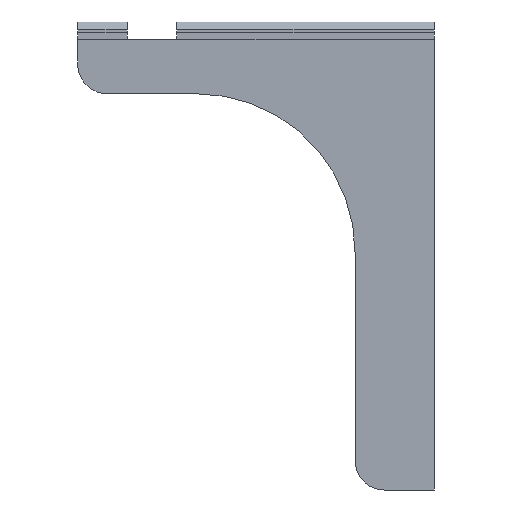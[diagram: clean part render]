
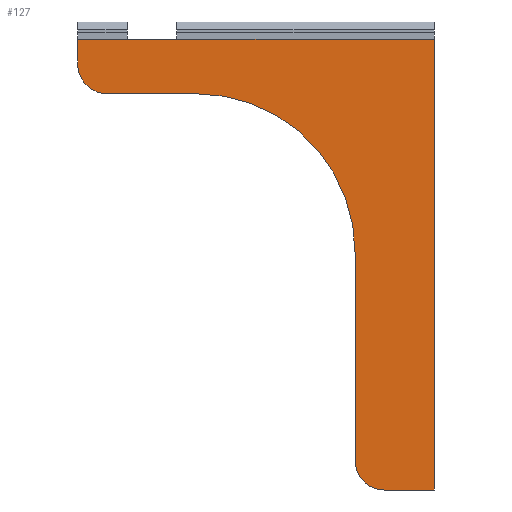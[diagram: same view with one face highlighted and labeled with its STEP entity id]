
A CAD part, left-side view. The second image highlights one B-rep face of the part: STEP entity #127.
In plain terms, the highlighted planar face has unit normal (-1, 0, 0).
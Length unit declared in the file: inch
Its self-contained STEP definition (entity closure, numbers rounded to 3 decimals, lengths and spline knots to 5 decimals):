
#53 = CIRCLE ( 'NONE', #1082, 0.375 ) ;
#106 = VECTOR ( 'NONE', #941, 39.37008 ) ;
#110 = DIRECTION ( 'NONE',  ( 0., 0., 1. ) ) ;
#127 = ADVANCED_FACE ( 'NONE', ( #1442 ), #1270, .F. ) ;
#151 = VERTEX_POINT ( 'NONE', #1494 ) ;
#162 = DIRECTION ( 'NONE',  ( -1., 0., 0. ) ) ;
#168 = ORIENTED_EDGE ( 'NONE', *, *, #1198, .F. ) ;
#199 = CARTESIAN_POINT ( 'NONE',  ( -1.1875, 1., -3. ) ) ;
#264 = DIRECTION ( 'NONE',  ( 0., 0., -1. ) ) ;
#276 = CARTESIAN_POINT ( 'NONE',  ( -1.1875, 0.625, -5.625 ) ) ;
#281 = ORIENTED_EDGE ( 'NONE', *, *, #343, .F. ) ;
#286 = EDGE_CURVE ( 'NONE', #151, #529, #811, .T. ) ;
#287 = DIRECTION ( 'NONE',  ( 0., 1., 0. ) ) ;
#301 = EDGE_CURVE ( 'NONE', #901, #1317, #388, .T. ) ;
#329 = VERTEX_POINT ( 'NONE', #558 ) ;
#343 = EDGE_CURVE ( 'NONE', #329, #529, #999, .T. ) ;
#348 = ORIENTED_EDGE ( 'NONE', *, *, #1094, .F. ) ;
#353 = VECTOR ( 'NONE', #425, 39.37008 ) ;
#359 = AXIS2_PLACEMENT_3D ( 'NONE', #276, #885, #1017 ) ;
#388 = LINE ( 'NONE', #684, #353 ) ;
#390 = CIRCLE ( 'NONE', #991, 2. ) ;
#420 = ORIENTED_EDGE ( 'NONE', *, *, #1031, .F. ) ;
#425 = DIRECTION ( 'NONE',  ( 0., 1., 0. ) ) ;
#428 = DIRECTION ( 'NONE',  ( 0., 0., 1. ) ) ;
#467 = DIRECTION ( 'NONE',  ( 1., 0., 0. ) ) ;
#494 = LINE ( 'NONE', #682, #1209 ) ;
#529 = VERTEX_POINT ( 'NONE', #1423 ) ;
#553 = CARTESIAN_POINT ( 'NONE',  ( -1.1875, 0.625, -5.625 ) ) ;
#555 = DIRECTION ( 'NONE',  ( 0., 0., 1. ) ) ;
#558 = CARTESIAN_POINT ( 'NONE',  ( -1.1875, 4.5, -0.625 ) ) ;
#566 = CARTESIAN_POINT ( 'NONE',  ( -1.1875, 1., -3. ) ) ;
#576 = CARTESIAN_POINT ( 'NONE',  ( -1.1875, 0., 0. ) ) ;
#651 = CARTESIAN_POINT ( 'NONE',  ( -1.1875, 4.125, -1. ) ) ;
#661 = CARTESIAN_POINT ( 'NONE',  ( -1.1875, 0., -0.314 ) ) ;
#670 = DIRECTION ( 'NONE',  ( 1., 0., 0. ) ) ;
#682 = CARTESIAN_POINT ( 'NONE',  ( -1.1875, 4.125, -1. ) ) ;
#684 = CARTESIAN_POINT ( 'NONE',  ( -1.1875, 0., -6. ) ) ;
#733 = LINE ( 'NONE', #576, #106 ) ;
#740 = CARTESIAN_POINT ( 'NONE',  ( -1.1875, 3., -1. ) ) ;
#747 = ORIENTED_EDGE ( 'NONE', *, *, #1375, .F. ) ;
#752 = CARTESIAN_POINT ( 'NONE',  ( -1.1875, 3., -3. ) ) ;
#788 = EDGE_CURVE ( 'NONE', #1129, #976, #390, .T. ) ;
#802 = CARTESIAN_POINT ( 'NONE',  ( -1.1875, 4.5, 0. ) ) ;
#811 = LINE ( 'NONE', #661, #867 ) ;
#828 = EDGE_LOOP ( 'NONE', ( #281, #168, #348, #891, #420, #747, #1036, #1365, #1000 ) ) ;
#867 = VECTOR ( 'NONE', #287, 39.37008 ) ;
#885 = DIRECTION ( 'NONE',  ( 1., 0., 0. ) ) ;
#891 = ORIENTED_EDGE ( 'NONE', *, *, #788, .F. ) ;
#899 = DIRECTION ( 'NONE',  ( 0., 0., 1. ) ) ;
#901 = VERTEX_POINT ( 'NONE', #984 ) ;
#923 = DIRECTION ( 'NONE',  ( 0., 1., 0. ) ) ;
#941 = DIRECTION ( 'NONE',  ( 0., 0., -1. ) ) ;
#976 = VERTEX_POINT ( 'NONE', #740 ) ;
#980 = VECTOR ( 'NONE', #899, 39.37008 ) ;
#984 = CARTESIAN_POINT ( 'NONE',  ( -1.1875, 0., -6. ) ) ;
#991 = AXIS2_PLACEMENT_3D ( 'NONE', #752, #162, #264 ) ;
#999 = LINE ( 'NONE', #802, #1035 ) ;
#1000 = ORIENTED_EDGE ( 'NONE', *, *, #286, .T. ) ;
#1017 = DIRECTION ( 'NONE',  ( 0., 0., 1. ) ) ;
#1031 = EDGE_CURVE ( 'NONE', #1108, #1129, #1366, .T. ) ;
#1035 = VECTOR ( 'NONE', #555, 39.37008 ) ;
#1036 = ORIENTED_EDGE ( 'NONE', *, *, #301, .F. ) ;
#1077 = AXIS2_PLACEMENT_3D ( 'NONE', #553, #670, #428 ) ;
#1082 = AXIS2_PLACEMENT_3D ( 'NONE', #1420, #467, #110 ) ;
#1094 = EDGE_CURVE ( 'NONE', #976, #1133, #494, .T. ) ;
#1108 = VERTEX_POINT ( 'NONE', #1236 ) ;
#1129 = VERTEX_POINT ( 'NONE', #199 ) ;
#1133 = VERTEX_POINT ( 'NONE', #651 ) ;
#1198 = EDGE_CURVE ( 'NONE', #1133, #329, #53, .T. ) ;
#1209 = VECTOR ( 'NONE', #923, 39.37008 ) ;
#1236 = CARTESIAN_POINT ( 'NONE',  ( -1.1875, 1., -5.625 ) ) ;
#1247 = EDGE_CURVE ( 'NONE', #151, #901, #733, .T. ) ;
#1270 = PLANE ( 'NONE',  #1077 ) ;
#1317 = VERTEX_POINT ( 'NONE', #1428 ) ;
#1333 = CIRCLE ( 'NONE', #359, 0.375 ) ;
#1365 = ORIENTED_EDGE ( 'NONE', *, *, #1247, .F. ) ;
#1366 = LINE ( 'NONE', #566, #980 ) ;
#1375 = EDGE_CURVE ( 'NONE', #1317, #1108, #1333, .T. ) ;
#1420 = CARTESIAN_POINT ( 'NONE',  ( -1.1875, 4.125, -0.625 ) ) ;
#1423 = CARTESIAN_POINT ( 'NONE',  ( -1.1875, 4.5, -0.314 ) ) ;
#1428 = CARTESIAN_POINT ( 'NONE',  ( -1.1875, 0.625, -6. ) ) ;
#1442 = FACE_OUTER_BOUND ( 'NONE', #828, .T. ) ;
#1494 = CARTESIAN_POINT ( 'NONE',  ( -1.1875, 0., -0.314 ) ) ;
